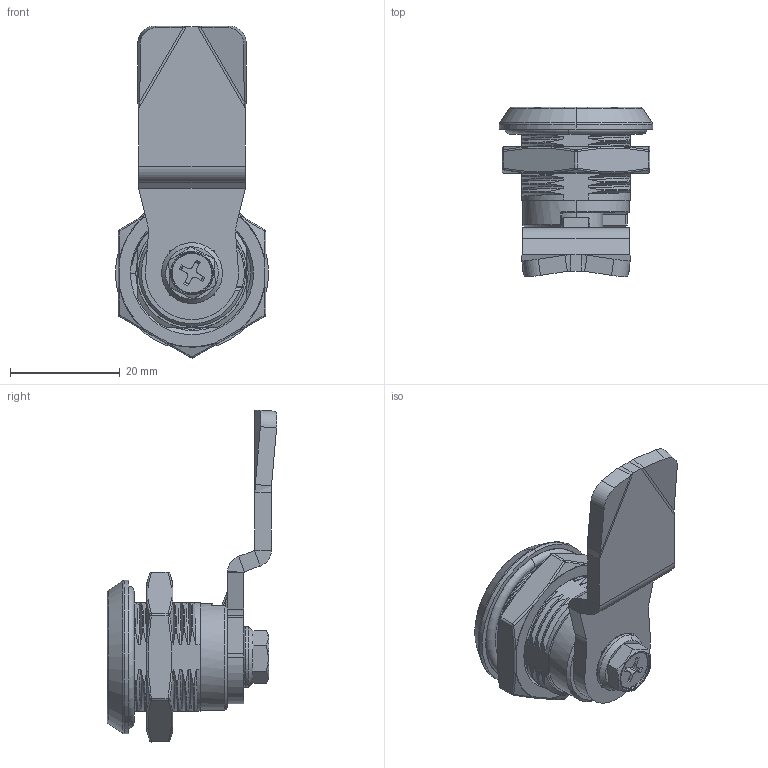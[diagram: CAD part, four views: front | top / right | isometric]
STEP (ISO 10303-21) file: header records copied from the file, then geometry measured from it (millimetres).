
FILE_DESCRIPTION (( 'STEP AP214' ), '1' );
FILE_NAME ('CUYUE.D1-1401-037.STEP', '2026-06-16T01:49:46', ( '' ), ( '' ), 'SwSTEP 2.0', 'SolidWorks 2020', '' );
FILE_SCHEMA (( 'AUTOMOTIVE_DESIGN' ));
Length unit declared in the file: millimetre
Products named in the file (9): M6X8蹟隊; CUYUE.D1-1401-037; D1-1401-013坶褲; 2X26密封圈; D1-1401-037坶郋; 2X16密封圈; 10.2X0.3等疏え; J-M22蹟譫; CAM4505
Assembly tree (9 placements, depth 2):
  CUYUE.D1-1401-037
    D1-1401-013坶褲
    2X16密封圈  x2
    2X26密封圈
    10.2X0.3等疏え
    D1-1401-037坶郋
    M6X8蹟隊
    CAM4505
    J-M22蹟譫
Bounding box: 28 x 31.04 x 60.64 mm (x, y, z)
Volume: 11231.6 mm3; surface area: 10930.2 mm2
Topology: 9 solids, 9 shells, 590 faces, 1465 edges, 892 vertices
Faces by surface type: bspline 223, cylinder 155, plane 120, cone 51, torus 37, sphere 4
Entity records: 56004 total; most frequent: CARTESIAN_POINT 42627, ORIENTED_EDGE 2902, DIRECTION 1839, EDGE_CURVE 1451, VERTEX_POINT 888, AXIS2_PLACEMENT_3D 696, EDGE_LOOP 605, FACE_OUTER_BOUND 586
